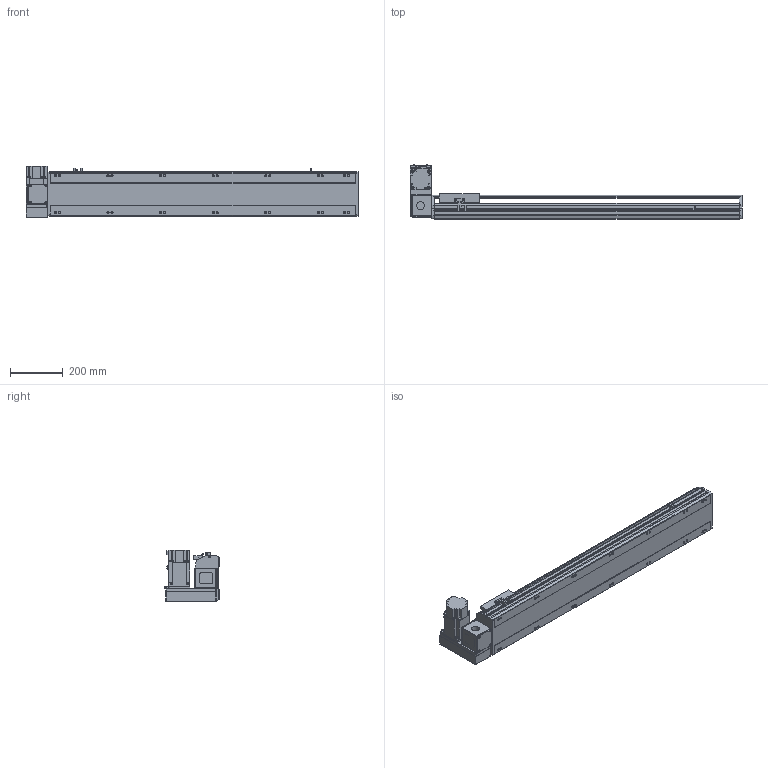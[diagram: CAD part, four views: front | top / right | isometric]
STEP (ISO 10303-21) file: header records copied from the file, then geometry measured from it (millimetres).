
FILE_DESCRIPTION( ( 'STEP AP214' ), '1' );
FILE_NAME( 'x:/temp/worker_4/temp/exporttempdir_2248_392_xHTwW/format_0/PBS170-P40-S900-LU-T75-C1-N(0).stp', '2022-06-07T08:14:59', ( 'License CC BY-ND 4.0' ), ( 'CADENAS' ), ' ', 'PARTsolutions', ' ' );
FILE_SCHEMA( ( 'AUTOMOTIVE_DESIGN { 1 0 10303 214 1 1 1 1 }' ) );
Length unit declared in the file: millimetre
Products named in the file (7): PBS170-P40-S900-LU-T75-C1-N(0); _PBS170-S900()_body; _PBS170T-LU_motors; _T75-p1; _PBS170_sliser; _PBS170_plant; _PBS170_sensor
Assembly tree (8 placements, depth 2):
  PBS170-P40-S900-LU-T75-C1-N(0)
    _PBS170-S900()_body
    _PBS170T-LU_motors
    _T75-p1
    _PBS170_sliser
    _PBS170_plant
    _PBS170_sensor  x3
Bounding box: 1263 x 206 x 197.3 mm (x, y, z)
Volume: 10276813.7 mm3; surface area: 1354627.6 mm2
Topology: 8 solids, 8 shells, 1066 faces, 2835 edges, 1848 vertices
Faces by surface type: plane 681, cylinder 331, cone 44, sphere 8, torus 2
Full cylindrical faces by diameter (mm): 3.242 x4, 4 x2, 4.4 x4, 4.5 x6, 4.917 x4, 6 x9, 6.647 x22, 7 x2, 7.5 x4, 8 x8, 8.5 x14, 10 x4, 10.5 x14, 11 x2, 30 x2, 40 x1, 70 x1
Entity records: 39098 total; most frequent: CARTESIAN_POINT 6053, DIRECTION 5230, ORIENTED_EDGE 4968, EDGE_CURVE 2484, AXIS2_PLACEMENT_3D 1807, VERTEX_POINT 1706, LINE 1616, VECTOR 1616
